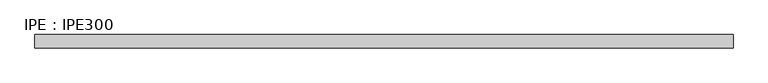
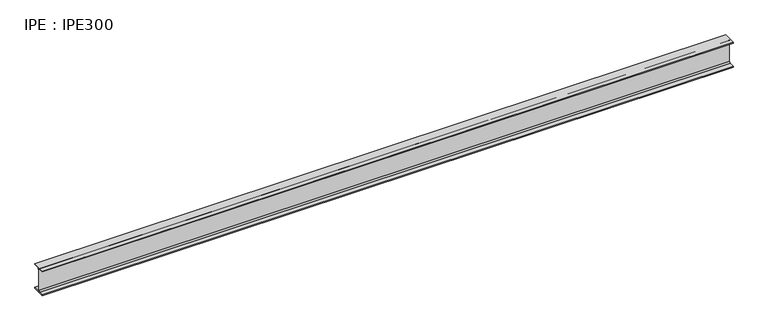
"""IFC4 building model written with IfcOpenShell, lengths in millimetres: beam geometry, IPE : IPE300."""

import ifcopenshell
import ifcopenshell.guid

model = None  # the IFC model being written
_history = None  # IfcOwnerHistory: only IFC2X3 demands one
_inside = {}  # id of a spatial element -> (the spatial element, [elements in it])
_under = {}  # id of a project, library or spatial element -> (it, [spatial elements below it])
_declared = {}  # id of a project -> (the project, [libraries it declares])
_typed = {}  # id of a type object -> (the type object, [elements of that type])
_made_of = {}  # id of a material, layer set ... -> (it, [elements and type objects made of it])


def new_model(schema):
    """Start an empty IFC model of exactly this schema.

    Asked for "IFC4X3", IfcOpenShell would pick the latest addendum, in which some entities
    have other attributes; the version numbers below select the first issue.
    IFC2X3 requires an IfcOwnerHistory on every rooted entity: one is made here for all.
    """
    global model, _history
    if schema == "IFC4X3":
        model = ifcopenshell.file(schema_version=(4, 3, 0, 0))
    else:
        model = ifcopenshell.file(schema=schema)
    _inside.clear()
    _under.clear()
    _declared.clear()
    _typed.clear()
    _made_of.clear()
    _history = None
    if model.schema == "IFC2X3":
        org = make("IfcOrganization", Name="unknown")
        user = make(
            "IfcPersonAndOrganization",
            ThePerson=make("IfcPerson", FamilyName="unknown"),
            TheOrganization=org,
        )
        app = make(
            "IfcApplication",
            ApplicationDeveloper=org,
            Version="unknown",
            ApplicationFullName="unknown",
            ApplicationIdentifier="unknown",
        )
        _history = make(
            "IfcOwnerHistory",
            OwningUser=user,
            OwningApplication=app,
            ChangeAction="ADDED",
            CreationDate=0,
        )
    return model


def make(cls, **values):
    """One entity of the class cls with the attributes given. An attribute that is None is left unset."""
    return model.create_entity(
        cls, **{name: value for name, value in values.items() if value is not None}
    )


def rooted(cls, **values):
    """An entity with a GlobalId (a new one), such as an element, a storey or a relation."""
    return make(cls, GlobalId=ifcopenshell.guid.new(), OwnerHistory=_history, **values)


def si_unit(unit_type, name, prefix=None):
    """IfcSIUnit, for example si_unit("LENGTHUNIT", "METRE", prefix="MILLI")."""
    return make("IfcSIUnit", UnitType=unit_type, Prefix=prefix, Name=name)


def assignment(units):
    """IfcUnitAssignment: the units of a project."""
    return None if units is None else make("IfcUnitAssignment", Units=units)


def point(xyz):
    """IfcCartesianPoint."""
    return None if xyz is None else make("IfcCartesianPoint", Coordinates=xyz)


def direction(xyz):
    """IfcDirection."""
    return None if xyz is None else make("IfcDirection", DirectionRatios=xyz)


def frame(location, z_axis=None, x_axis=None):
    """IfcAxis2Placement3D, a coordinate frame: its origin and axes. An axis left out is left unset."""
    return make(
        "IfcAxis2Placement3D",
        Location=point(location),
        Axis=direction(z_axis),
        RefDirection=direction(x_axis),
    )


def frame_2d(location, x_axis=None):
    """IfcAxis2Placement2D, a coordinate frame in the plane: its origin and x axis."""
    return make(
        "IfcAxis2Placement2D", Location=point(location), RefDirection=direction(x_axis)
    )


def origin():
    """The frame at (0, 0, 0) with its axes left unset."""
    return frame((0.0, 0.0, 0.0))


def place(relative_to, where):
    """IfcLocalPlacement: puts the frame where relative to a parent placement (None: the world)."""
    return make(
        "IfcLocalPlacement", PlacementRelTo=relative_to, RelativePlacement=where
    )


def context(
    kind, dimensions, precision=None, world=None, true_north=None, identifier=None
):
    """IfcGeometricRepresentationContext, for example the 3D "Model" context."""
    return make(
        "IfcGeometricRepresentationContext",
        ContextIdentifier=identifier,
        ContextType=kind,
        CoordinateSpaceDimension=dimensions,
        Precision=precision,
        WorldCoordinateSystem=world,
        TrueNorth=true_north,
    )


def project(units=None, contexts=None):
    """IfcProject with its units and contexts."""
    return rooted(
        "IfcProject",
        Name="project",
        RepresentationContexts=contexts,
        UnitsInContext=assignment(units),
    )


def spatial(cls, under=None, at=None, **own):
    """A site, building, storey or space (cls), placed at a placement, below another one or the project."""
    s = rooted(cls, ObjectPlacement=at, **own)
    if under is not None:
        _under.setdefault(under.id(), (under, []))[1].append(s)
    return s


def polyline(points):
    """IfcPolyline through the points."""
    return make("IfcPolyline", Points=[point(p) for p in points])


def circle_curve(where, radius):
    """IfcCircle in the frame where."""
    return make("IfcCircle", Position=where, Radius=radius)


def trimmed(basis, trim1, trim2, sense, master):
    """IfcTrimmedCurve: the piece of a basis curve between two trims."""
    return make(
        "IfcTrimmedCurve",
        BasisCurve=basis,
        Trim1=trim1,
        Trim2=trim2,
        SenseAgreement=sense,
        MasterRepresentation=master,
    )


def segment(curve, same_sense, transition):
    """IfcCompositeCurveSegment."""
    return make(
        "IfcCompositeCurveSegment",
        Transition=transition,
        SameSense=same_sense,
        ParentCurve=curve,
    )


def composite_curve(segments, self_intersect=None):
    """IfcCompositeCurve: segments joined end to end."""
    return make("IfcCompositeCurve", Segments=segments, SelfIntersect=self_intersect)


def outline(outer, holes=None, kind="AREA"):
    """IfcArbitraryClosedProfileDef: a profile drawn as a closed curve; with holes, ...WithVoids."""
    if holes is None:
        return make("IfcArbitraryClosedProfileDef", ProfileType=kind, OuterCurve=outer)
    return make(
        "IfcArbitraryProfileDefWithVoids",
        ProfileType=kind,
        OuterCurve=outer,
        InnerCurves=holes,
    )


def extrude(swept, where, along, depth):
    """IfcExtrudedAreaSolid: the profile swept, set in the frame where, extruded along a direction by depth."""
    return make(
        "IfcExtrudedAreaSolid",
        SweptArea=swept,
        Position=where,
        ExtrudedDirection=direction(along),
        Depth=depth,
    )


def shape(context_of_items, identifier, shape_type, items):
    """IfcShapeRepresentation: the items that make up one representation, for example the "Body"."""
    return make(
        "IfcShapeRepresentation",
        ContextOfItems=context_of_items,
        RepresentationIdentifier=identifier,
        RepresentationType=shape_type,
        Items=items,
    )


def source(mapping_origin, context_of_items, identifier, shape_type, items):
    """IfcRepresentationMap: a shape defined once, which mapped items show again and again."""
    return make(
        "IfcRepresentationMap",
        MappingOrigin=mapping_origin,
        MappedRepresentation=shape(context_of_items, identifier, shape_type, items),
    )


def transform(
    local_origin,
    x_axis=None,
    y_axis=None,
    z_axis=None,
    scale=None,
    scale2=None,
    scale3=None,
    uniform=True,
):
    """IfcCartesianTransformationOperator3D, or its non-uniform kind. x_axis, y_axis, z_axis: its Axis1, 2, 3."""
    if uniform:
        return make(
            "IfcCartesianTransformationOperator3D",
            Axis1=direction(x_axis),
            Axis2=direction(y_axis),
            LocalOrigin=point(local_origin),
            Scale=scale,
            Axis3=direction(z_axis),
        )
    return make(
        "IfcCartesianTransformationOperator3DnonUniform",
        Axis1=direction(x_axis),
        Axis2=direction(y_axis),
        LocalOrigin=point(local_origin),
        Scale=scale,
        Axis3=direction(z_axis),
        Scale2=scale2,
        Scale3=scale3,
    )


def mapped(mapping_source, mapping_target):
    """IfcMappedItem: shows the shape of a source again, moved by a transform."""
    return make(
        "IfcMappedItem", MappingSource=mapping_source, MappingTarget=mapping_target
    )


def made_of(thing, what):
    """Note that an element or type object is made of a material, layer set ...; save() writes the relation."""
    if what is not None:
        _made_of.setdefault(what.id(), (what, []))[1].append(thing)
    return thing


def element(
    cls,
    number,
    at=None,
    inside=None,
    cuts=None,
    type_object=None,
    material=None,
    context=None,
    identifier="Body",
    shape_type=None,
    held_by="IfcProductDefinitionShape",
    body=None,
    shapes=None,
    **own,
):
    """One element of the class cls, such as IfcWall. Its Tag is "e" and its number.

    at: its placement. inside: the storey or other place that contains it. cuts: it is an
    opening in that element (IfcRelVoidsElement). A single representation is given by context,
    identifier, shape_type and body (its items); several are given by shapes. held_by: the class
    of the entity that holds the representations. save() writes the other relations.
    """
    e = rooted(cls, Tag="e%d" % number, ObjectPlacement=at, **own)
    if body is not None:
        shapes = [shape(context, identifier, shape_type, body)]
    if shapes is not None:
        e.Representation = make(held_by, Representations=shapes)
    if inside is not None:
        _inside.setdefault(inside.id(), (inside, []))[1].append(e)
    if cuts is not None:
        rooted(
            "IfcRelVoidsElement", RelatingBuildingElement=cuts, RelatedOpeningElement=e
        )
    if type_object is not None:
        _typed.setdefault(type_object.id(), (type_object, []))[1].append(e)
    return made_of(e, material)


def aggregate(whole, parts):
    """IfcRelAggregates: a whole, such as a stair, and the parts it consists of."""
    return rooted("IfcRelAggregates", RelatingObject=whole, RelatedObjects=parts)


def save(model, path):
    """Write the relations noted so far, then the file.

    IfcRelAggregates (storeys below a building ...), IfcRelContainedInSpatialStructure (elements
    in a storey), IfcRelDefinesByType, IfcRelAssociatesMaterial and IfcRelDeclares: one each for
    every whole, place, type object, material and project.
    """
    for whole, parts in _under.values():
        aggregate(whole, parts)
    for where, things in _inside.values():
        rooted(
            "IfcRelContainedInSpatialStructure",
            RelatedElements=things,
            RelatingStructure=where,
        )
    for kind, things in _typed.values():
        rooted("IfcRelDefinesByType", RelatedObjects=things, RelatingType=kind)
    for what, things in _made_of.values():
        rooted("IfcRelAssociatesMaterial", RelatedObjects=things, RelatingMaterial=what)
    for by, libraries in _declared.values():
        rooted("IfcRelDeclares", RelatingContext=by, RelatedDefinitions=libraries)
    model.write(path)


def ipe_ipe300_f8e40e8f(model_context):
    return source(origin(), model_context, "Body", "SweptSolid", [
        extrude(outline(composite_curve([segment(polyline([(75.0, -139.3), (75.0, -150.0), (-75.0, -150.0), (-75.0, -139.3), (-18.55, -139.3)]), True, "CONTINUOUS"), segment(trimmed(circle_curve(frame_2d((-18.55, -124.3)), 15.0), [point((-18.55, -139.3))], [point((-3.55, -124.3))], True, "CARTESIAN"), True, "CONTINUOUS"), segment(polyline([(-3.55, -124.3), (-3.55, 124.3)]), True, "CONTINUOUS"), segment(trimmed(circle_curve(frame_2d((-18.55, 124.3)), 15.0), [point((-3.55, 124.3))], [point((-18.55, 139.3))], True, "CARTESIAN"), True, "CONTINUOUS"), segment(polyline([(-18.55, 139.3), (-75.0, 139.3), (-75.0, 150.0), (75.0, 150.0), (75.0, 139.3), (18.55, 139.3)]), True, "CONTINUOUS"), segment(trimmed(circle_curve(frame_2d((18.55, 124.3)), 15.0), [point((18.55, 139.3))], [point((3.55, 124.3))], True, "CARTESIAN"), True, "CONTINUOUS"), segment(polyline([(3.55, 124.3), (3.55, -124.3)]), True, "CONTINUOUS"), segment(trimmed(circle_curve(frame_2d((18.55, -124.3)), 15.0), [point((3.55, -124.3))], [point((18.55, -139.3))], True, "CARTESIAN"), True, "CONTINUOUS"), segment(polyline([(18.55, -139.3), (75.0, -139.3)]), True, "CONTINUOUS")], self_intersect=False)), frame((-3995.0, 0.0, 0.0), z_axis=(1.0, 0.0, 0.0), x_axis=(0.0, 1.0, 0.0)), (0.0, 0.0, 1.0), 7923.3),
    ])


if __name__ == "__main__":
    model = new_model("IFC4")
    model_context = context("Model", 3, world=origin())
    ifc_project = project(units=[si_unit("LENGTHUNIT", "METRE", prefix="MILLI")], contexts=[model_context])
    site = spatial("IfcSite", under=ifc_project)
    building = spatial("IfcBuilding", under=site)
    placement = place(None, origin())
    ipe_ipe300_shape = ipe_ipe300_f8e40e8f(model_context)
    element("IfcBeam", 1, ObjectType="IPE : IPE300", at=placement, inside=building, context=model_context, shape_type="MappedRepresentation", body=[
        mapped(ipe_ipe300_shape, transform((0.0, 0.0, 0.0), x_axis=(1.0, 0.0, 0.0), y_axis=(0.0, 1.0, 0.0), z_axis=(0.0, 0.0, 1.0))),
    ])
    save(model, "model.ifc")
